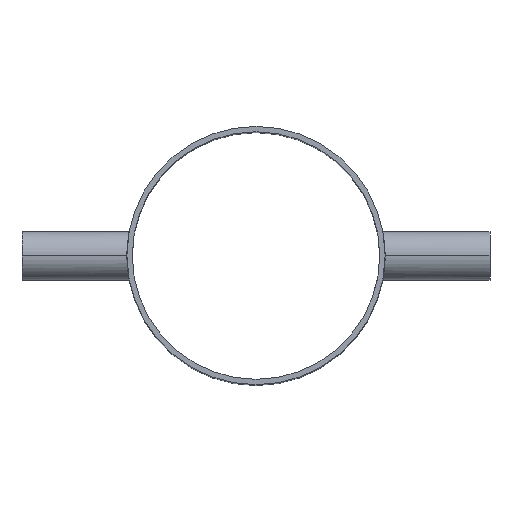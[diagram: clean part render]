
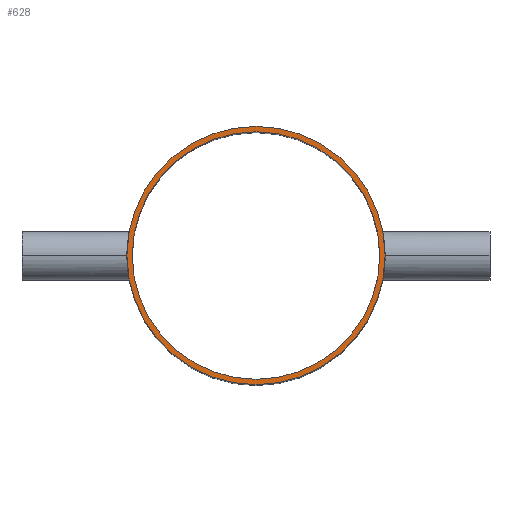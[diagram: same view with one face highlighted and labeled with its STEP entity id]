
A CAD part, top view. The second image highlights one B-rep face of the part: STEP entity #628.
In plain terms, the highlighted planar face has unit normal (0, 0, 1).
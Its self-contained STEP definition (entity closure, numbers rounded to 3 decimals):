
#22 = CARTESIAN_POINT ( 'NONE',  ( 0., 0., 104.775 ) ) ;
#50 = EDGE_CURVE ( 'NONE', #481, #877, #203, .T. ) ;
#87 = CARTESIAN_POINT ( 'NONE',  ( 0., 0., 104.775 ) ) ;
#97 = DIRECTION ( 'NONE',  ( 0., 0., -1. ) ) ;
#104 = DIRECTION ( 'NONE',  ( 0., 0., 1. ) ) ;
#111 = VERTEX_POINT ( 'NONE', #315 ) ;
#184 = DIRECTION ( 'NONE',  ( 1., 0., 0. ) ) ;
#203 = CIRCLE ( 'NONE', #598, 48.692 ) ;
#205 = FACE_OUTER_BOUND ( 'NONE', #508, .T. ) ;
#211 = CARTESIAN_POINT ( 'NONE',  ( 50.8, 0., 104.775 ) ) ;
#215 = AXIS2_PLACEMENT_3D ( 'NONE', #612, #647, #184 ) ;
#225 = CARTESIAN_POINT ( 'NONE',  ( 0., 0., 104.775 ) ) ;
#226 = EDGE_CURVE ( 'NONE', #877, #481, #807, .T. ) ;
#231 = ORIENTED_EDGE ( 'NONE', *, *, #226, .T. ) ;
#244 = AXIS2_PLACEMENT_3D ( 'NONE', #87, #104, #435 ) ;
#247 = DIRECTION ( 'NONE',  ( 0., 0., -1. ) ) ;
#283 = AXIS2_PLACEMENT_3D ( 'NONE', #225, #247, #540 ) ;
#315 = CARTESIAN_POINT ( 'NONE',  ( -50.8, 0., 104.775 ) ) ;
#337 = EDGE_CURVE ( 'NONE', #111, #840, #536, .T. ) ;
#338 = AXIS2_PLACEMENT_3D ( 'NONE', #596, #603, #605 ) ;
#349 = EDGE_CURVE ( 'NONE', #840, #111, #823, .T. ) ;
#353 = FACE_BOUND ( 'NONE', #497, .T. ) ;
#367 = PLANE ( 'NONE',  #244 ) ;
#435 = DIRECTION ( 'NONE',  ( 1., 0., 0. ) ) ;
#443 = DIRECTION ( 'NONE',  ( 1., 0., 0. ) ) ;
#481 = VERTEX_POINT ( 'NONE', #814 ) ;
#497 = EDGE_LOOP ( 'NONE', ( #231, #621 ) ) ;
#508 = EDGE_LOOP ( 'NONE', ( #743, #789 ) ) ;
#536 = CIRCLE ( 'NONE', #283, 50.8 ) ;
#540 = DIRECTION ( 'NONE',  ( 1., 0., 0. ) ) ;
#596 = CARTESIAN_POINT ( 'NONE',  ( 0., 0., 104.775 ) ) ;
#598 = AXIS2_PLACEMENT_3D ( 'NONE', #22, #97, #443 ) ;
#603 = DIRECTION ( 'NONE',  ( 0., 0., -1. ) ) ;
#605 = DIRECTION ( 'NONE',  ( 1., 0., 0. ) ) ;
#612 = CARTESIAN_POINT ( 'NONE',  ( 0., 0., 104.775 ) ) ;
#621 = ORIENTED_EDGE ( 'NONE', *, *, #50, .T. ) ;
#628 = ADVANCED_FACE ( 'NONE', ( #205, #353 ), #367, .T. ) ;
#647 = DIRECTION ( 'NONE',  ( 0., 0., -1. ) ) ;
#743 = ORIENTED_EDGE ( 'NONE', *, *, #349, .F. ) ;
#786 = CARTESIAN_POINT ( 'NONE',  ( 48.692, 0., 104.775 ) ) ;
#789 = ORIENTED_EDGE ( 'NONE', *, *, #337, .F. ) ;
#807 = CIRCLE ( 'NONE', #338, 48.692 ) ;
#814 = CARTESIAN_POINT ( 'NONE',  ( -48.692, 0., 104.775 ) ) ;
#823 = CIRCLE ( 'NONE', #215, 50.8 ) ;
#840 = VERTEX_POINT ( 'NONE', #211 ) ;
#877 = VERTEX_POINT ( 'NONE', #786 ) ;
